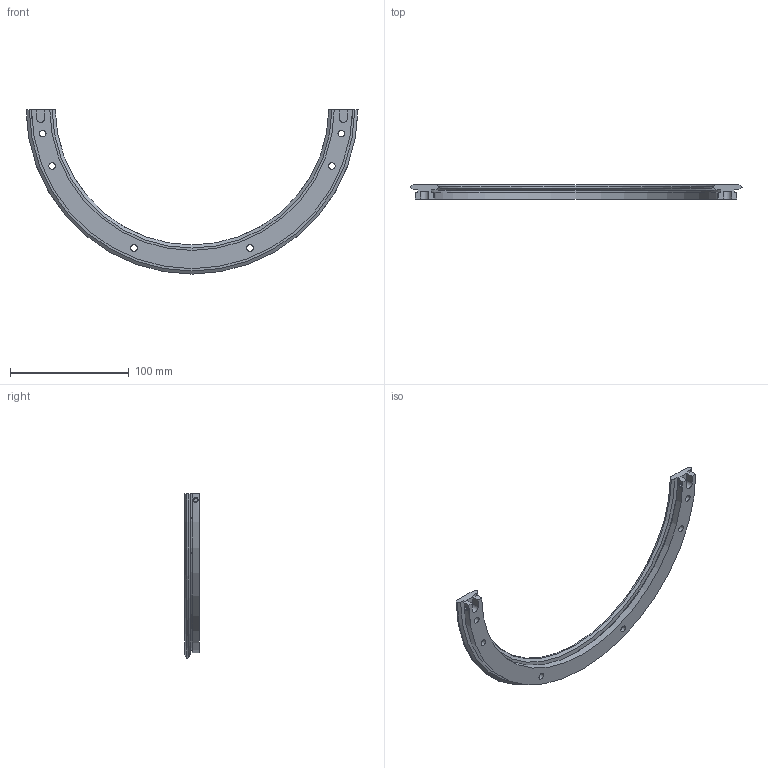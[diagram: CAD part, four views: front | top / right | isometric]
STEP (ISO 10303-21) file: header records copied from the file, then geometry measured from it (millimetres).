
FILE_DESCRIPTION( ( 'STEP AP203' ), '1' );
FILE_NAME( 'p:/temp/worker_26/temp/exporttempdir_4644_894_5NQlv/format_0/TR25 255 R180.stp', '2021-09-17T07:39:20', ( 'License CC BY-ND 4.0' ), ( 'CADENAS' ), ' ', 'PARTsolutions', ' ' );
FILE_SCHEMA( ( 'CONFIG_CONTROL_DESIGN' ) );
Length unit declared in the file: millimetre
Products named in the file (1): _TR25 255 R180
Bounding box: 279.59 x 12.25 x 138.3 mm (x, y, z)
Volume: 80227.9 mm3; surface area: 32482.3 mm2
Topology: 1 solids, 1 shells, 80 faces, 195 edges, 131 vertices
Faces by surface type: plane 52, cylinder 22, cone 4, torus 2
Full cylindrical faces by diameter (mm): 4 x4, 5.5 x6, 9 x6
Entity records: 2570 total; most frequent: CARTESIAN_POINT 672, DIRECTION 370, ORIENTED_EDGE 352, EDGE_CURVE 176, AXIS2_PLACEMENT_3D 129, VERTEX_POINT 129, EDGE_LOOP 122, LINE 112
